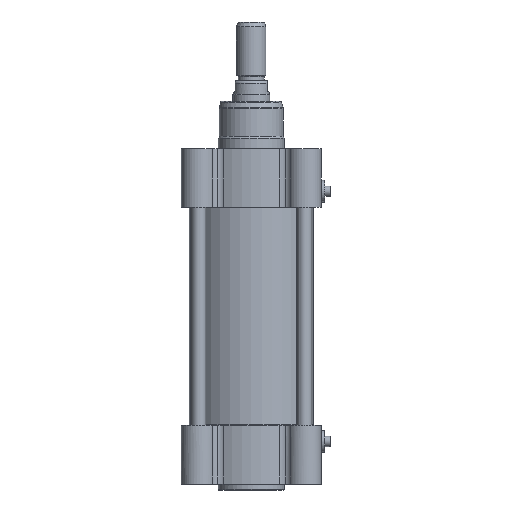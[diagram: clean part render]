
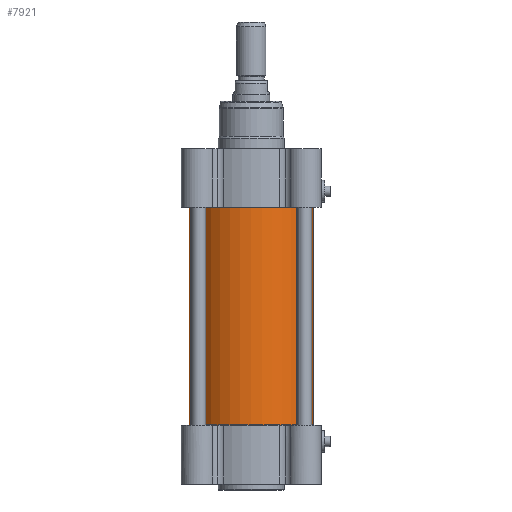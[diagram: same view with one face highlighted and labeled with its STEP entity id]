
A CAD part, front view. The second image highlights one B-rep face of the part: STEP entity #7921.
In plain terms, the highlighted cylindrical face has radius 42 mm (diameter 84 mm), a partial arc.
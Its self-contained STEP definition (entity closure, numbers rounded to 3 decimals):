
#547 = EDGE_LOOP ( 'NONE', ( #14580, #27222, #22236, #12265 ) ) ;
#652 = DIRECTION ( 'NONE',  ( 0., 0., 1. ) ) ;
#1453 = VERTEX_POINT ( 'NONE', #15205 ) ;
#2540 = CARTESIAN_POINT ( 'NONE',  ( 42., 0., 147.8 ) ) ;
#2862 = CARTESIAN_POINT ( 'NONE',  ( 0., 0., 147.8 ) ) ;
#4409 = FACE_OUTER_BOUND ( 'NONE', #547, .T. ) ;
#5236 = EDGE_CURVE ( 'NONE', #10218, #20041, #14130, .T. ) ;
#5683 = AXIS2_PLACEMENT_3D ( 'NONE', #14262, #16519, #22901 ) ;
#6094 = AXIS2_PLACEMENT_3D ( 'NONE', #8253, #21314, #23310 ) ;
#6137 = CYLINDRICAL_SURFACE ( 'NONE', #6094, 42. ) ;
#7038 = EDGE_CURVE ( 'NONE', #16091, #20041, #24672, .T. ) ;
#7921 = ADVANCED_FACE ( 'NONE', ( #4409 ), #6137, .T. ) ;
#8253 = CARTESIAN_POINT ( 'NONE',  ( 0., 0., 0. ) ) ;
#10046 = AXIS2_PLACEMENT_3D ( 'NONE', #2862, #18194, #13805 ) ;
#10218 = VERTEX_POINT ( 'NONE', #17719 ) ;
#11305 = CARTESIAN_POINT ( 'NONE',  ( -42., 0., 0. ) ) ;
#12265 = ORIENTED_EDGE ( 'NONE', *, *, #18543, .F. ) ;
#13805 = DIRECTION ( 'NONE',  ( -1., 0., 0. ) ) ;
#14130 = CIRCLE ( 'NONE', #10046, 42. ) ;
#14262 = CARTESIAN_POINT ( 'NONE',  ( 0., 0., 0.2 ) ) ;
#14580 = ORIENTED_EDGE ( 'NONE', *, *, #19022, .F. ) ;
#15205 = CARTESIAN_POINT ( 'NONE',  ( -42., 0., 0.2 ) ) ;
#15711 = DIRECTION ( 'NONE',  ( 0., 0., 1. ) ) ;
#16091 = VERTEX_POINT ( 'NONE', #22211 ) ;
#16519 = DIRECTION ( 'NONE',  ( 0., 0., -1. ) ) ;
#17719 = CARTESIAN_POINT ( 'NONE',  ( -42., 0., 147.8 ) ) ;
#17898 = CIRCLE ( 'NONE', #5683, 42. ) ;
#18194 = DIRECTION ( 'NONE',  ( 0., 0., 1. ) ) ;
#18543 = EDGE_CURVE ( 'NONE', #1453, #10218, #22361, .T. ) ;
#19022 = EDGE_CURVE ( 'NONE', #16091, #1453, #17898, .T. ) ;
#20041 = VERTEX_POINT ( 'NONE', #2540 ) ;
#20396 = CARTESIAN_POINT ( 'NONE',  ( 42., 0., 0. ) ) ;
#21314 = DIRECTION ( 'NONE',  ( 0., 0., 1. ) ) ;
#22211 = CARTESIAN_POINT ( 'NONE',  ( 42., 0., 0.2 ) ) ;
#22236 = ORIENTED_EDGE ( 'NONE', *, *, #5236, .F. ) ;
#22361 = LINE ( 'NONE', #11305, #24583 ) ;
#22901 = DIRECTION ( 'NONE',  ( -1., 0., 0. ) ) ;
#23310 = DIRECTION ( 'NONE',  ( -1., 0., 0. ) ) ;
#24583 = VECTOR ( 'NONE', #652, 1000. ) ;
#24672 = LINE ( 'NONE', #20396, #26455 ) ;
#26455 = VECTOR ( 'NONE', #15711, 1000. ) ;
#27222 = ORIENTED_EDGE ( 'NONE', *, *, #7038, .T. ) ;
